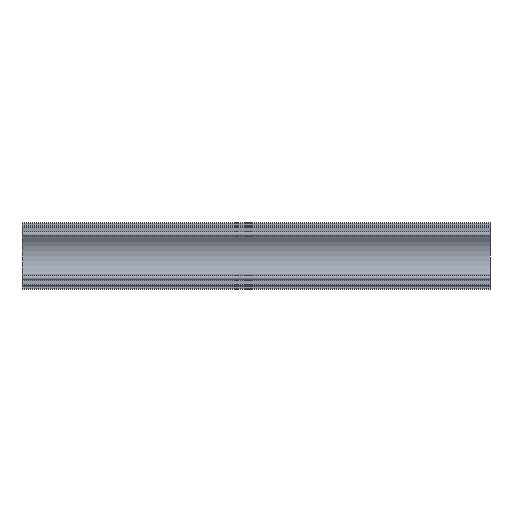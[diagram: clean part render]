
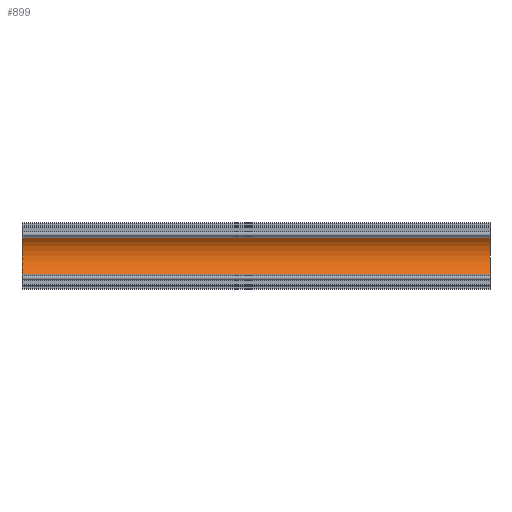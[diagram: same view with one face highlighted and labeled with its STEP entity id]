
A CAD part, front view. The second image highlights one B-rep face of the part: STEP entity #899.
In plain terms, the highlighted cylindrical face has radius 6.225 mm (diameter 12.45 mm), a partial arc.
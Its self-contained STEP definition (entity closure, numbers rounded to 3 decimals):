
#43=FACE_OUTER_BOUND('',#91,.T.);
#91=EDGE_LOOP('',(#607,#608,#609,#610));
#142=LINE('',#1337,#236);
#143=LINE('',#1343,#237);
#236=VECTOR('',#1054,100.);
#237=VECTOR('',#1061,100.);
#327=CIRCLE('',#952,6.225);
#328=CIRCLE('',#953,6.225);
#373=VERTEX_POINT('',#1330);
#376=VERTEX_POINT('',#1335);
#377=VERTEX_POINT('',#1339);
#378=VERTEX_POINT('',#1341);
#468=EDGE_CURVE('',#373,#376,#142,.T.);
#469=EDGE_CURVE('',#377,#373,#327,.T.);
#470=EDGE_CURVE('',#378,#376,#328,.T.);
#471=EDGE_CURVE('',#377,#378,#143,.T.);
#607=ORIENTED_EDGE('',*,*,#469,.T.);
#608=ORIENTED_EDGE('',*,*,#468,.T.);
#609=ORIENTED_EDGE('',*,*,#470,.F.);
#610=ORIENTED_EDGE('',*,*,#471,.F.);
#876=CYLINDRICAL_SURFACE('',#951,6.225);
#899=ADVANCED_FACE('',(#43),#876,.F.);
#951=AXIS2_PLACEMENT_3D('',#1338,#1055,#1056);
#952=AXIS2_PLACEMENT_3D('',#1340,#1057,#1058);
#953=AXIS2_PLACEMENT_3D('',#1342,#1059,#1060);
#1054=DIRECTION('',(1.,0.,0.));
#1055=DIRECTION('center_axis',(1.,0.,0.));
#1056=DIRECTION('ref_axis',(0.,-1.,0.));
#1057=DIRECTION('center_axis',(-1.,0.,0.));
#1058=DIRECTION('ref_axis',(0.,-1.,0.));
#1059=DIRECTION('center_axis',(-1.,0.,0.));
#1060=DIRECTION('ref_axis',(0.,-1.,0.));
#1061=DIRECTION('',(1.,0.,0.));
#1330=CARTESIAN_POINT('',(0.,5.721,-6.222));
#1335=CARTESIAN_POINT('',(100.,5.721,-6.222));
#1337=CARTESIAN_POINT('',(0.,5.721,-6.222));
#1338=CARTESIAN_POINT('Origin',(0.,5.539,0.));
#1339=CARTESIAN_POINT('',(0.,5.721,6.222));
#1340=CARTESIAN_POINT('Origin',(0.,5.539,0.));
#1341=CARTESIAN_POINT('',(100.,5.721,6.222));
#1342=CARTESIAN_POINT('Origin',(100.,5.539,0.));
#1343=CARTESIAN_POINT('',(0.,5.721,6.222));
